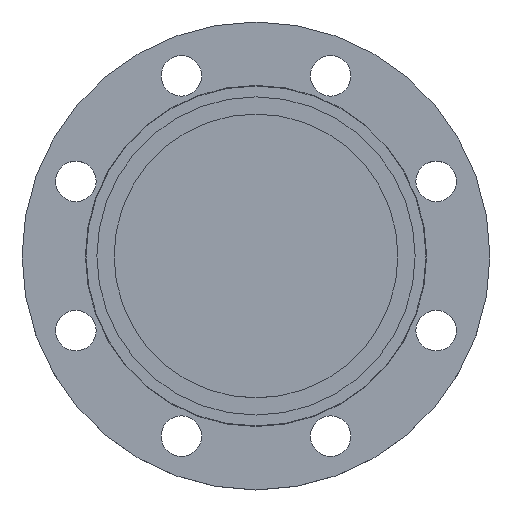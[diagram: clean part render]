
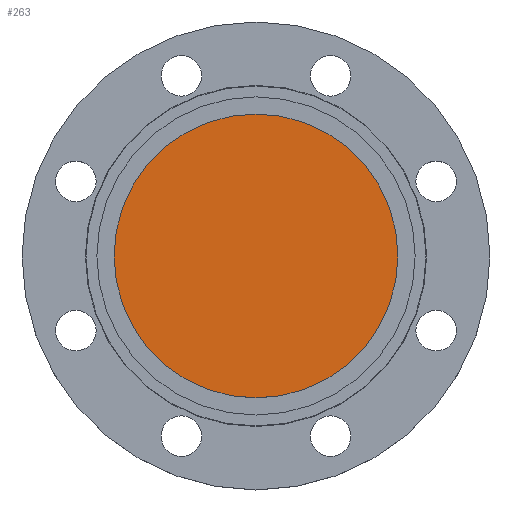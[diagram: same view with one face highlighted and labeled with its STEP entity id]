
A CAD part, top view. The second image highlights one B-rep face of the part: STEP entity #263.
In plain terms, the highlighted planar face has unit normal (0, 0, 1).
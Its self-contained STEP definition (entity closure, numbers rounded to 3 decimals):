
#30 = EDGE_CURVE ( 'NONE', #198, #134, #726, .T. ) ;
#134 = VERTEX_POINT ( 'NONE', #339 ) ;
#148 = EDGE_LOOP ( 'NONE', ( #296, #433 ) ) ;
#154 = EDGE_CURVE ( 'NONE', #134, #198, #206, .T. ) ;
#157 = DIRECTION ( 'NONE',  ( -1., 0., 0. ) ) ;
#169 = DIRECTION ( 'NONE',  ( 0., 0., -1. ) ) ;
#193 = DIRECTION ( 'NONE',  ( 1., 0., 0. ) ) ;
#198 = VERTEX_POINT ( 'NONE', #849 ) ;
#206 = CIRCLE ( 'NONE', #471, 91. ) ;
#263 = ADVANCED_FACE ( 'NONE', ( #923 ), #279, .T. ) ;
#279 = PLANE ( 'NONE',  #333 ) ;
#296 = ORIENTED_EDGE ( 'NONE', *, *, #154, .F. ) ;
#333 = AXIS2_PLACEMENT_3D ( 'NONE', #589, #861, #193 ) ;
#339 = CARTESIAN_POINT ( 'NONE',  ( -91., 0., 0. ) ) ;
#433 = ORIENTED_EDGE ( 'NONE', *, *, #30, .F. ) ;
#437 = AXIS2_PLACEMENT_3D ( 'NONE', #556, #832, #157 ) ;
#471 = AXIS2_PLACEMENT_3D ( 'NONE', #844, #169, #501 ) ;
#501 = DIRECTION ( 'NONE',  ( -1., 0., 0. ) ) ;
#556 = CARTESIAN_POINT ( 'NONE',  ( 0., 0., 0. ) ) ;
#589 = CARTESIAN_POINT ( 'NONE',  ( 0., 0., 0. ) ) ;
#726 = CIRCLE ( 'NONE', #437, 91. ) ;
#832 = DIRECTION ( 'NONE',  ( 0., 0., -1. ) ) ;
#844 = CARTESIAN_POINT ( 'NONE',  ( 0., 0., 0. ) ) ;
#849 = CARTESIAN_POINT ( 'NONE',  ( 91., 0., 0. ) ) ;
#861 = DIRECTION ( 'NONE',  ( 0., 0., 1. ) ) ;
#923 = FACE_OUTER_BOUND ( 'NONE', #148, .T. ) ;
